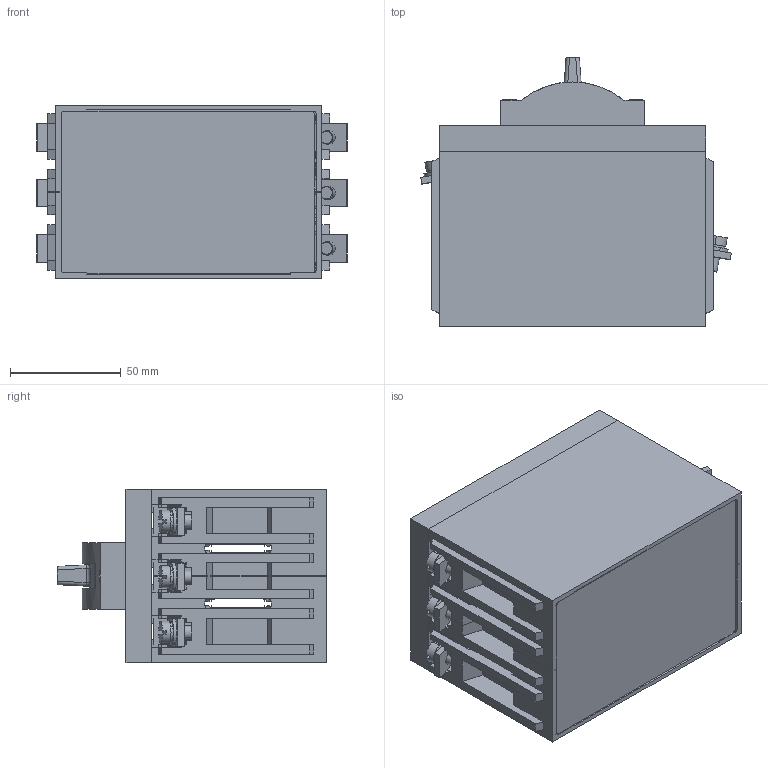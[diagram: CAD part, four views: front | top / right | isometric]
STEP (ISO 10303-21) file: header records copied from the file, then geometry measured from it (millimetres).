
FILE_DESCRIPTION (( 'STEP AP203' ), '1' );
FILE_NAME ('ÀÊ50Á-3ïîë.STEP', '2014-07-04T07:01:56', ( 'admin' ), ( '' ), 'SwSTEP 2.0', 'SolidWorks 2007', '' );
FILE_SCHEMA (( 'CONFIG_CONTROL_DESIGN' ));
Length unit declared in the file: millimetre
Products named in the file (1): ÀÊ50Á-3ïîë
Bounding box: 140.04 x 121.5 x 78 mm (x, y, z)
Surface area: 95329.1 mm2 (no closed solid volume)
Topology: 0 solids, 41 shells, 435 faces, 1654 edges, 1250 vertices
Faces by surface type: plane 305, cylinder 112, cone 10, bspline 8
Entity records: 18211 total; most frequent: CARTESIAN_POINT 4555, DIRECTION 2713, ORIENTED_EDGE 2550, EDGE_CURVE 1650, VERTEX_POINT 1250, VECTOR 1217, LINE 1217, AXIS2_PLACEMENT_3D 748
